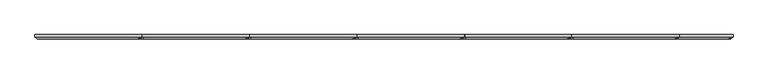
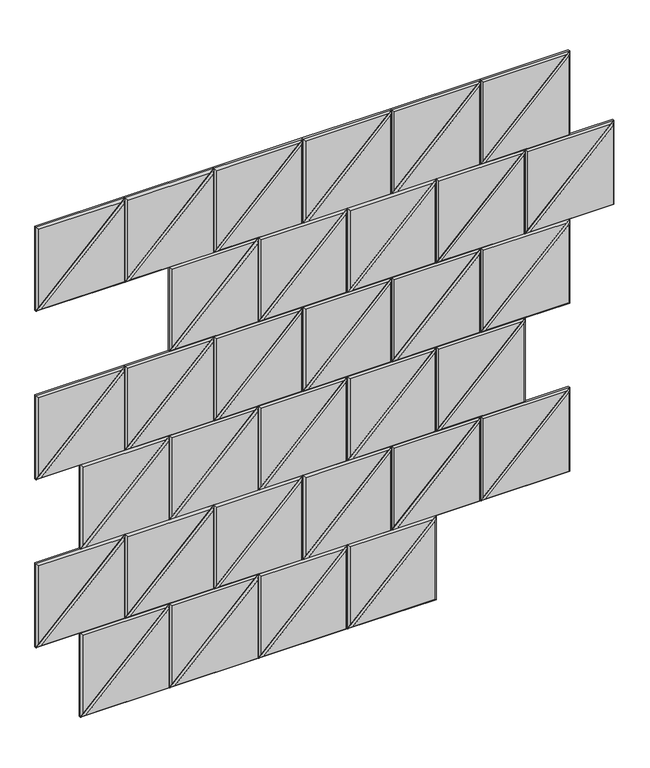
"""IFC4 building model written with IfcOpenShell, lengths in millimetres: proxy geometry, Wall_Akebia 4.3dm."""

import ifcopenshell
import ifcopenshell.guid

model = None  # the IFC model being written
_history = None  # IfcOwnerHistory: only IFC2X3 demands one
_inside = {}  # id of a spatial element -> (the spatial element, [elements in it])
_under = {}  # id of a project, library or spatial element -> (it, [spatial elements below it])
_declared = {}  # id of a project -> (the project, [libraries it declares])
_typed = {}  # id of a type object -> (the type object, [elements of that type])
_made_of = {}  # id of a material, layer set ... -> (it, [elements and type objects made of it])


def new_model(schema):
    """Start an empty IFC model of exactly this schema.

    Asked for "IFC4X3", IfcOpenShell would pick the latest addendum, in which some entities
    have other attributes; the version numbers below select the first issue.
    IFC2X3 requires an IfcOwnerHistory on every rooted entity: one is made here for all.
    """
    global model, _history
    if schema == "IFC4X3":
        model = ifcopenshell.file(schema_version=(4, 3, 0, 0))
    else:
        model = ifcopenshell.file(schema=schema)
    _inside.clear()
    _under.clear()
    _declared.clear()
    _typed.clear()
    _made_of.clear()
    _history = None
    if model.schema == "IFC2X3":
        org = make("IfcOrganization", Name="unknown")
        user = make(
            "IfcPersonAndOrganization",
            ThePerson=make("IfcPerson", FamilyName="unknown"),
            TheOrganization=org,
        )
        app = make(
            "IfcApplication",
            ApplicationDeveloper=org,
            Version="unknown",
            ApplicationFullName="unknown",
            ApplicationIdentifier="unknown",
        )
        _history = make(
            "IfcOwnerHistory",
            OwningUser=user,
            OwningApplication=app,
            ChangeAction="ADDED",
            CreationDate=0,
        )
    return model


def make(cls, **values):
    """One entity of the class cls with the attributes given. An attribute that is None is left unset."""
    return model.create_entity(
        cls, **{name: value for name, value in values.items() if value is not None}
    )


def rooted(cls, **values):
    """An entity with a GlobalId (a new one), such as an element, a storey or a relation."""
    return make(cls, GlobalId=ifcopenshell.guid.new(), OwnerHistory=_history, **values)


def si_unit(unit_type, name, prefix=None):
    """IfcSIUnit, for example si_unit("LENGTHUNIT", "METRE", prefix="MILLI")."""
    return make("IfcSIUnit", UnitType=unit_type, Prefix=prefix, Name=name)


def assignment(units):
    """IfcUnitAssignment: the units of a project."""
    return None if units is None else make("IfcUnitAssignment", Units=units)


def point(xyz):
    """IfcCartesianPoint."""
    return None if xyz is None else make("IfcCartesianPoint", Coordinates=xyz)


def direction(xyz):
    """IfcDirection."""
    return None if xyz is None else make("IfcDirection", DirectionRatios=xyz)


def frame(location, z_axis=None, x_axis=None):
    """IfcAxis2Placement3D, a coordinate frame: its origin and axes. An axis left out is left unset."""
    return make(
        "IfcAxis2Placement3D",
        Location=point(location),
        Axis=direction(z_axis),
        RefDirection=direction(x_axis),
    )


def origin():
    """The frame at (0, 0, 0) with its axes left unset."""
    return frame((0.0, 0.0, 0.0))


def place(relative_to, where):
    """IfcLocalPlacement: puts the frame where relative to a parent placement (None: the world)."""
    return make(
        "IfcLocalPlacement", PlacementRelTo=relative_to, RelativePlacement=where
    )


def context(
    kind, dimensions, precision=None, world=None, true_north=None, identifier=None
):
    """IfcGeometricRepresentationContext, for example the 3D "Model" context."""
    return make(
        "IfcGeometricRepresentationContext",
        ContextIdentifier=identifier,
        ContextType=kind,
        CoordinateSpaceDimension=dimensions,
        Precision=precision,
        WorldCoordinateSystem=world,
        TrueNorth=true_north,
    )


def project(units=None, contexts=None):
    """IfcProject with its units and contexts."""
    return rooted(
        "IfcProject",
        Name="project",
        RepresentationContexts=contexts,
        UnitsInContext=assignment(units),
    )


def spatial(cls, under=None, at=None, **own):
    """A site, building, storey or space (cls), placed at a placement, below another one or the project."""
    s = rooted(cls, ObjectPlacement=at, **own)
    if under is not None:
        _under.setdefault(under.id(), (under, []))[1].append(s)
    return s


def faces_of(points, faces, orient=None, outer=None):
    """IfcFace entities. A face is a list of loops; a loop is a list of indices into points, from 0.

    orient and outer hold one flag for each loop. By default every Orientation is true, the
    first loop of a face is its IfcFaceOuterBound and the others are IfcFaceBound.
    """
    made = []
    for i, loops in enumerate(faces):
        bounds = []
        for j, loop in enumerate(loops):
            is_outer = j == 0 if outer is None else outer[i][j]
            bounds.append(
                make(
                    "IfcFaceOuterBound" if is_outer else "IfcFaceBound",
                    Bound=make("IfcPolyLoop", Polygon=[points[k] for k in loop]),
                    Orientation=True if orient is None else orient[i][j],
                )
            )
        made.append(make("IfcFace", Bounds=bounds))
    return made


def faceted_brep(points, faces, orient=None, outer=None, voids=None):
    """IfcFacetedBrep: a solid bounded by flat faces; with voids (closed shells), ...WithVoids."""
    shared = [point(p) for p in points]
    hull = make("IfcClosedShell", CfsFaces=faces_of(shared, faces, orient, outer))
    if voids is None:
        return make("IfcFacetedBrep", Outer=hull)
    return make(
        "IfcFacetedBrepWithVoids",
        Outer=hull,
        Voids=[
            make(cls, CfsFaces=faces_of(shared, fs, o, b)) for cls, fs, o, b in voids
        ],
    )


def shape(context_of_items, identifier, shape_type, items):
    """IfcShapeRepresentation: the items that make up one representation, for example the "Body"."""
    return make(
        "IfcShapeRepresentation",
        ContextOfItems=context_of_items,
        RepresentationIdentifier=identifier,
        RepresentationType=shape_type,
        Items=items,
    )


def source(mapping_origin, context_of_items, identifier, shape_type, items):
    """IfcRepresentationMap: a shape defined once, which mapped items show again and again."""
    return make(
        "IfcRepresentationMap",
        MappingOrigin=mapping_origin,
        MappedRepresentation=shape(context_of_items, identifier, shape_type, items),
    )


def transform(
    local_origin,
    x_axis=None,
    y_axis=None,
    z_axis=None,
    scale=None,
    scale2=None,
    scale3=None,
    uniform=True,
):
    """IfcCartesianTransformationOperator3D, or its non-uniform kind. x_axis, y_axis, z_axis: its Axis1, 2, 3."""
    if uniform:
        return make(
            "IfcCartesianTransformationOperator3D",
            Axis1=direction(x_axis),
            Axis2=direction(y_axis),
            LocalOrigin=point(local_origin),
            Scale=scale,
            Axis3=direction(z_axis),
        )
    return make(
        "IfcCartesianTransformationOperator3DnonUniform",
        Axis1=direction(x_axis),
        Axis2=direction(y_axis),
        LocalOrigin=point(local_origin),
        Scale=scale,
        Axis3=direction(z_axis),
        Scale2=scale2,
        Scale3=scale3,
    )


def mapped(mapping_source, mapping_target):
    """IfcMappedItem: shows the shape of a source again, moved by a transform."""
    return make(
        "IfcMappedItem", MappingSource=mapping_source, MappingTarget=mapping_target
    )


def made_of(thing, what):
    """Note that an element or type object is made of a material, layer set ...; save() writes the relation."""
    if what is not None:
        _made_of.setdefault(what.id(), (what, []))[1].append(thing)
    return thing


def element(
    cls,
    number,
    at=None,
    inside=None,
    cuts=None,
    type_object=None,
    material=None,
    context=None,
    identifier="Body",
    shape_type=None,
    held_by="IfcProductDefinitionShape",
    body=None,
    shapes=None,
    **own,
):
    """One element of the class cls, such as IfcWall. Its Tag is "e" and its number.

    at: its placement. inside: the storey or other place that contains it. cuts: it is an
    opening in that element (IfcRelVoidsElement). A single representation is given by context,
    identifier, shape_type and body (its items); several are given by shapes. held_by: the class
    of the entity that holds the representations. save() writes the other relations.
    """
    e = rooted(cls, Tag="e%d" % number, ObjectPlacement=at, **own)
    if body is not None:
        shapes = [shape(context, identifier, shape_type, body)]
    if shapes is not None:
        e.Representation = make(held_by, Representations=shapes)
    if inside is not None:
        _inside.setdefault(inside.id(), (inside, []))[1].append(e)
    if cuts is not None:
        rooted(
            "IfcRelVoidsElement", RelatingBuildingElement=cuts, RelatedOpeningElement=e
        )
    if type_object is not None:
        _typed.setdefault(type_object.id(), (type_object, []))[1].append(e)
    return made_of(e, material)


def aggregate(whole, parts):
    """IfcRelAggregates: a whole, such as a stair, and the parts it consists of."""
    return rooted("IfcRelAggregates", RelatingObject=whole, RelatedObjects=parts)


def save(model, path):
    """Write the relations noted so far, then the file.

    IfcRelAggregates (storeys below a building ...), IfcRelContainedInSpatialStructure (elements
    in a storey), IfcRelDefinesByType, IfcRelAssociatesMaterial and IfcRelDeclares: one each for
    every whole, place, type object, material and project.
    """
    for whole, parts in _under.values():
        aggregate(whole, parts)
    for where, things in _inside.values():
        rooted(
            "IfcRelContainedInSpatialStructure",
            RelatedElements=things,
            RelatingStructure=where,
        )
    for kind, things in _typed.values():
        rooted("IfcRelDefinesByType", RelatedObjects=things, RelatingType=kind)
    for what, things in _made_of.values():
        rooted("IfcRelAssociatesMaterial", RelatedObjects=things, RelatingMaterial=what)
    for by, libraries in _declared.values():
        rooted("IfcRelDeclares", RelatingContext=by, RelatedDefinitions=libraries)
    model.write(path)


def generic_models_d60f6803(model_context):
    return source(origin(), model_context, "Body", "Brep", [
        faceted_brep([(3597.025, 12.0, 1009.2984417), (3298.575, 12.0, 1009.2984417), (3597.025, 12.0, 1307.7484417), (3597.025, 6.0, 1009.2984417), (3597.025, 6.0, 1307.7484417), (3298.575, 6.0, 1009.2984417), (3313.0602814, 0.0, 1015.2984417), (3591.025, 0.0, 1015.2984417), (3591.025, 0.0, 1293.2631603)], [[[0, 1, 2]], [[3, 0, 2, 4]], [[4, 2, 1, 5]], [[5, 1, 0, 3]], [[6, 7, 8]], [[3, 4, 8, 7]], [[4, 5, 6, 8]], [[5, 3, 7, 6]]]),
        faceted_brep([(3298.575, 12.0, 1307.7484417), (3597.025, 12.0, 1307.7484417), (3298.575, 12.0, 1009.2984417), (3298.575, 6.0, 1307.7484417), (3597.025, 6.0, 1307.7484417), (3298.575, 6.0, 1009.2984417), (3304.575, 0.0, 1023.7837231), (3582.5397186, 0.0, 1301.7484417), (3304.575, 0.0, 1301.7484417)], [[[0, 1, 2]], [[3, 4, 1, 0]], [[4, 5, 2, 1]], [[5, 3, 0, 2]], [[6, 7, 8]], [[3, 8, 7, 4]], [[4, 7, 6, 5]], [[5, 6, 8, 3]]]),
        faceted_brep([(3000.125, 12.0, 1307.7484417), (3298.575, 12.0, 1307.7484417), (3000.125, 12.0, 1009.2984417), (3000.125, 6.0, 1307.7484417), (3000.125, 6.0, 1009.2984417), (3298.575, 6.0, 1307.7484417), (3284.0897186, 0.0, 1301.7484417), (3006.125, 0.0, 1301.7484417), (3006.125, 0.0, 1023.7837231)], [[[0, 1, 2]], [[3, 0, 2, 4]], [[4, 2, 1, 5]], [[5, 1, 0, 3]], [[6, 7, 8]], [[3, 4, 8, 7]], [[4, 5, 6, 8]], [[5, 3, 7, 6]]]),
        faceted_brep([(3298.575, 12.0, 1009.2984417), (3000.125, 12.0, 1009.2984417), (3298.575, 12.0, 1307.7484417), (3298.575, 6.0, 1009.2984417), (3000.125, 6.0, 1009.2984417), (3298.575, 6.0, 1307.7484417), (3292.575, 0.0, 1293.2631603), (3014.6102814, 0.0, 1015.2984417), (3292.575, 0.0, 1015.2984417)], [[[0, 1, 2]], [[3, 4, 1, 0]], [[4, 5, 2, 1]], [[5, 3, 0, 2]], [[6, 7, 8]], [[3, 8, 7, 4]], [[4, 7, 6, 5]], [[5, 6, 8, 3]]]),
        faceted_brep([(3000.1243169, 12.0, 1009.2976625), (2701.6743169, 12.0, 1009.2976625), (3000.1243169, 12.0, 1307.7476625), (3000.1243169, 6.0, 1009.2976625), (3000.1243169, 6.0, 1307.7476625), (2701.6743169, 6.0, 1009.2976625), (2716.1595982, 0.0, 1015.2976625), (2994.1243169, 0.0, 1015.2976625), (2994.1243169, 0.0, 1293.2623811)], [[[0, 1, 2]], [[3, 0, 2, 4]], [[4, 2, 1, 5]], [[5, 1, 0, 3]], [[6, 7, 8]], [[3, 4, 8, 7]], [[4, 5, 6, 8]], [[5, 3, 7, 6]]]),
        faceted_brep([(2701.6743169, 12.0, 1307.7476625), (3000.1243169, 12.0, 1307.7476625), (2701.6743169, 12.0, 1009.2976625), (2701.6743169, 6.0, 1307.7476625), (3000.1243169, 6.0, 1307.7476625), (2701.6743169, 6.0, 1009.2976625), (2707.6743169, 0.0, 1023.7829439), (2985.6390355, 0.0, 1301.7476625), (2707.6743169, 0.0, 1301.7476625)], [[[0, 1, 2]], [[3, 4, 1, 0]], [[4, 5, 2, 1]], [[5, 3, 0, 2]], [[6, 7, 8]], [[3, 8, 7, 4]], [[4, 7, 6, 5]], [[5, 6, 8, 3]]]),
        faceted_brep([(2403.2243169, 12.0, 1307.7476625), (2701.6743169, 12.0, 1307.7476625), (2403.2243169, 12.0, 1009.2976625), (2403.2243169, 6.0, 1307.7476625), (2403.2243169, 6.0, 1009.2976625), (2701.6743169, 6.0, 1307.7476625), (2687.1890355, 0.0, 1301.7476625), (2409.2243169, 0.0, 1301.7476625), (2409.2243169, 0.0, 1023.7829439)], [[[0, 1, 2]], [[3, 0, 2, 4]], [[4, 2, 1, 5]], [[5, 1, 0, 3]], [[6, 7, 8]], [[3, 4, 8, 7]], [[4, 5, 6, 8]], [[5, 3, 7, 6]]]),
        faceted_brep([(2701.6743169, 12.0, 1009.2976625), (2403.2243169, 12.0, 1009.2976625), (2701.6743169, 12.0, 1307.7476625), (2701.6743169, 6.0, 1009.2976625), (2403.2243169, 6.0, 1009.2976625), (2701.6743169, 6.0, 1307.7476625), (2695.6743169, 0.0, 1293.2623811), (2417.7095982, 0.0, 1015.2976625), (2695.6743169, 0.0, 1015.2976625)], [[[0, 1, 2]], [[3, 4, 1, 0]], [[4, 5, 2, 1]], [[5, 3, 0, 2]], [[6, 7, 8]], [[3, 8, 7, 4]], [[4, 7, 6, 5]], [[5, 6, 8, 3]]]),
        faceted_brep([(3746.2513663, 12.0, 1606.2), (4044.7013663, 12.0, 1606.2), (3746.2513663, 12.0, 1307.75), (3746.2513663, 6.0, 1606.2), (3746.2513663, 6.0, 1307.75), (4044.7013663, 6.0, 1606.2), (4030.2160849, 0.0, 1600.2), (3752.2513663, 0.0, 1600.2), (3752.2513663, 0.0, 1322.2352814)], [[[0, 1, 2]], [[3, 0, 2, 4]], [[4, 2, 1, 5]], [[5, 1, 0, 3]], [[6, 7, 8]], [[3, 4, 8, 7]], [[4, 5, 6, 8]], [[5, 3, 7, 6]]]),
        faceted_brep([(4044.7013663, 12.0, 1307.75), (3746.2513663, 12.0, 1307.75), (4044.7013663, 12.0, 1606.2), (4044.7013663, 6.0, 1307.75), (3746.2513663, 6.0, 1307.75), (4044.7013663, 6.0, 1606.2), (4038.7013663, 0.0, 1591.7147186), (3760.7366476, 0.0, 1313.75), (4038.7013663, 0.0, 1313.75)], [[[0, 1, 2]], [[3, 4, 1, 0]], [[4, 5, 2, 1]], [[5, 3, 0, 2]], [[6, 7, 8]], [[3, 8, 7, 4]], [[4, 7, 6, 5]], [[5, 6, 8, 3]]]),
        faceted_brep([(3746.2506831, 12.0, 1307.7492208), (3447.8006831, 12.0, 1307.7492208), (3746.2506831, 12.0, 1606.1992208), (3746.2506831, 6.0, 1307.7492208), (3746.2506831, 6.0, 1606.1992208), (3447.8006831, 6.0, 1307.7492208), (3462.2859645, 0.0, 1313.7492208), (3740.2506831, 0.0, 1313.7492208), (3740.2506831, 0.0, 1591.7139395)], [[[0, 1, 2]], [[3, 0, 2, 4]], [[4, 2, 1, 5]], [[5, 1, 0, 3]], [[6, 7, 8]], [[3, 4, 8, 7]], [[4, 5, 6, 8]], [[5, 3, 7, 6]]]),
        faceted_brep([(3447.8006831, 12.0, 1606.1992208), (3746.2506831, 12.0, 1606.1992208), (3447.8006831, 12.0, 1307.7492208), (3447.8006831, 6.0, 1606.1992208), (3746.2506831, 6.0, 1606.1992208), (3447.8006831, 6.0, 1307.7492208), (3453.8006831, 0.0, 1322.2345022), (3731.7654018, 0.0, 1600.1992208), (3453.8006831, 0.0, 1600.1992208)], [[[0, 1, 2]], [[3, 4, 1, 0]], [[4, 5, 2, 1]], [[5, 3, 0, 2]], [[6, 7, 8]], [[3, 8, 7, 4]], [[4, 7, 6, 5]], [[5, 6, 8, 3]]]),
        faceted_brep([(3149.3506831, 12.0, 1606.1992208), (3447.8006831, 12.0, 1606.1992208), (3149.3506831, 12.0, 1307.7492208), (3149.3506831, 6.0, 1606.1992208), (3149.3506831, 6.0, 1307.7492208), (3447.8006831, 6.0, 1606.1992208), (3433.3154018, 0.0, 1600.1992208), (3155.3506831, 0.0, 1600.1992208), (3155.3506831, 0.0, 1322.2345022)], [[[0, 1, 2]], [[3, 0, 2, 4]], [[4, 2, 1, 5]], [[5, 1, 0, 3]], [[6, 7, 8]], [[3, 4, 8, 7]], [[4, 5, 6, 8]], [[5, 3, 7, 6]]]),
        faceted_brep([(3447.8006831, 12.0, 1307.7492208), (3149.3506831, 12.0, 1307.7492208), (3447.8006831, 12.0, 1606.1992208), (3447.8006831, 6.0, 1307.7492208), (3149.3506831, 6.0, 1307.7492208), (3447.8006831, 6.0, 1606.1992208), (3441.8006831, 0.0, 1591.7139395), (3163.8359645, 0.0, 1313.7492208), (3441.8006831, 0.0, 1313.7492208)], [[[0, 1, 2]], [[3, 4, 1, 0]], [[4, 5, 2, 1]], [[5, 3, 0, 2]], [[6, 7, 8]], [[3, 8, 7, 4]], [[4, 7, 6, 5]], [[5, 6, 8, 3]]]),
        faceted_brep([(3149.35, 12.0, 1307.7484417), (2850.9, 12.0, 1307.7484417), (3149.35, 12.0, 1606.1984417), (3149.35, 6.0, 1307.7484417), (3149.35, 6.0, 1606.1984417), (2850.9, 6.0, 1307.7484417), (2865.3852814, 0.0, 1313.7484417), (3143.35, 0.0, 1313.7484417), (3143.35, 0.0, 1591.7131603)], [[[0, 1, 2]], [[3, 0, 2, 4]], [[4, 2, 1, 5]], [[5, 1, 0, 3]], [[6, 7, 8]], [[3, 4, 8, 7]], [[4, 5, 6, 8]], [[5, 3, 7, 6]]]),
        faceted_brep([(2850.9, 12.0, 1606.1984417), (3149.35, 12.0, 1606.1984417), (2850.9, 12.0, 1307.7484417), (2850.9, 6.0, 1606.1984417), (3149.35, 6.0, 1606.1984417), (2850.9, 6.0, 1307.7484417), (2856.9, 0.0, 1322.2337231), (3134.8647186, 0.0, 1600.1984417), (2856.9, 0.0, 1600.1984417)], [[[0, 1, 2]], [[3, 4, 1, 0]], [[4, 5, 2, 1]], [[5, 3, 0, 2]], [[6, 7, 8]], [[3, 8, 7, 4]], [[4, 7, 6, 5]], [[5, 6, 8, 3]]]),
        faceted_brep([(2552.45, 12.0, 1606.1984417), (2850.9, 12.0, 1606.1984417), (2552.45, 12.0, 1307.7484417), (2552.45, 6.0, 1606.1984417), (2552.45, 6.0, 1307.7484417), (2850.9, 6.0, 1606.1984417), (2836.4147186, 0.0, 1600.1984417), (2558.45, 0.0, 1600.1984417), (2558.45, 0.0, 1322.2337231)], [[[0, 1, 2]], [[3, 0, 2, 4]], [[4, 2, 1, 5]], [[5, 1, 0, 3]], [[6, 7, 8]], [[3, 4, 8, 7]], [[4, 5, 6, 8]], [[5, 3, 7, 6]]]),
        faceted_brep([(2850.9, 12.0, 1307.7484417), (2552.45, 12.0, 1307.7484417), (2850.9, 12.0, 1606.1984417), (2850.9, 6.0, 1307.7484417), (2552.45, 6.0, 1307.7484417), (2850.9, 6.0, 1606.1984417), (2844.9, 0.0, 1591.7131603), (2566.9352814, 0.0, 1313.7484417), (2844.9, 0.0, 1313.7484417)], [[[0, 1, 2]], [[3, 4, 1, 0]], [[4, 5, 2, 1]], [[5, 3, 0, 2]], [[6, 7, 8]], [[3, 8, 7, 4]], [[4, 7, 6, 5]], [[5, 6, 8, 3]]]),
        faceted_brep([(2552.4493169, 12.0, 1307.7476625), (2253.9993169, 12.0, 1307.7476625), (2552.4493169, 12.0, 1606.1976625), (2552.4493169, 6.0, 1307.7476625), (2552.4493169, 6.0, 1606.1976625), (2253.9993169, 6.0, 1307.7476625), (2268.4845982, 0.0, 1313.7476625), (2546.4493169, 0.0, 1313.7476625), (2546.4493169, 0.0, 1591.7123811)], [[[0, 1, 2]], [[3, 0, 2, 4]], [[4, 2, 1, 5]], [[5, 1, 0, 3]], [[6, 7, 8]], [[3, 4, 8, 7]], [[4, 5, 6, 8]], [[5, 3, 7, 6]]]),
        faceted_brep([(2253.9993169, 12.0, 1606.1976625), (2552.4493169, 12.0, 1606.1976625), (2253.9993169, 12.0, 1307.7476625), (2253.9993169, 6.0, 1606.1976625), (2552.4493169, 6.0, 1606.1976625), (2253.9993169, 6.0, 1307.7476625), (2259.9993169, 0.0, 1322.2329439), (2537.9640355, 0.0, 1600.1976625), (2259.9993169, 0.0, 1600.1976625)], [[[0, 1, 2]], [[3, 4, 1, 0]], [[4, 5, 2, 1]], [[5, 3, 0, 2]], [[6, 7, 8]], [[3, 8, 7, 4]], [[4, 7, 6, 5]], [[5, 6, 8, 3]]]),
        faceted_brep([(3597.0263663, 12.0, 1904.65), (3895.4763663, 12.0, 1904.65), (3597.0263663, 12.0, 1606.2), (3597.0263663, 6.0, 1904.65), (3597.0263663, 6.0, 1606.2), (3895.4763663, 6.0, 1904.65), (3880.9910849, 0.0, 1898.65), (3603.0263663, 0.0, 1898.65), (3603.0263663, 0.0, 1620.6852814)], [[[0, 1, 2]], [[3, 0, 2, 4]], [[4, 2, 1, 5]], [[5, 1, 0, 3]], [[6, 7, 8]], [[3, 4, 8, 7]], [[4, 5, 6, 8]], [[5, 3, 7, 6]]]),
        faceted_brep([(3895.4763663, 12.0, 1606.2), (3597.0263663, 12.0, 1606.2), (3895.4763663, 12.0, 1904.65), (3895.4763663, 6.0, 1606.2), (3597.0263663, 6.0, 1606.2), (3895.4763663, 6.0, 1904.65), (3889.4763663, 0.0, 1890.1647186), (3611.5116476, 0.0, 1612.2), (3889.4763663, 0.0, 1612.2)], [[[0, 1, 2]], [[3, 4, 1, 0]], [[4, 5, 2, 1]], [[5, 3, 0, 2]], [[6, 7, 8]], [[3, 8, 7, 4]], [[4, 7, 6, 5]], [[5, 6, 8, 3]]]),
        faceted_brep([(3597.0256831, 12.0, 1606.1992208), (3298.5756831, 12.0, 1606.1992208), (3597.0256831, 12.0, 1904.6492208), (3597.0256831, 6.0, 1606.1992208), (3597.0256831, 6.0, 1904.6492208), (3298.5756831, 6.0, 1606.1992208), (3313.0609645, 0.0, 1612.1992208), (3591.0256831, 0.0, 1612.1992208), (3591.0256831, 0.0, 1890.1639395)], [[[0, 1, 2]], [[3, 0, 2, 4]], [[4, 2, 1, 5]], [[5, 1, 0, 3]], [[6, 7, 8]], [[3, 4, 8, 7]], [[4, 5, 6, 8]], [[5, 3, 7, 6]]]),
        faceted_brep([(3298.5756831, 12.0, 1904.6492208), (3597.0256831, 12.0, 1904.6492208), (3298.5756831, 12.0, 1606.1992208), (3298.5756831, 6.0, 1904.6492208), (3597.0256831, 6.0, 1904.6492208), (3298.5756831, 6.0, 1606.1992208), (3304.5756831, 0.0, 1620.6845022), (3582.5404018, 0.0, 1898.6492208), (3304.5756831, 0.0, 1898.6492208)], [[[0, 1, 2]], [[3, 4, 1, 0]], [[4, 5, 2, 1]], [[5, 3, 0, 2]], [[6, 7, 8]], [[3, 8, 7, 4]], [[4, 7, 6, 5]], [[5, 6, 8, 3]]]),
        faceted_brep([(3000.1256831, 12.0, 1904.6492208), (3298.5756831, 12.0, 1904.6492208), (3000.1256831, 12.0, 1606.1992208), (3000.1256831, 6.0, 1904.6492208), (3000.1256831, 6.0, 1606.1992208), (3298.5756831, 6.0, 1904.6492208), (3284.0904018, 0.0, 1898.6492208), (3006.1256831, 0.0, 1898.6492208), (3006.1256831, 0.0, 1620.6845022)], [[[0, 1, 2]], [[3, 0, 2, 4]], [[4, 2, 1, 5]], [[5, 1, 0, 3]], [[6, 7, 8]], [[3, 4, 8, 7]], [[4, 5, 6, 8]], [[5, 3, 7, 6]]]),
        faceted_brep([(3298.5756831, 12.0, 1606.1992208), (3000.1256831, 12.0, 1606.1992208), (3298.5756831, 12.0, 1904.6492208), (3298.5756831, 6.0, 1606.1992208), (3000.1256831, 6.0, 1606.1992208), (3298.5756831, 6.0, 1904.6492208), (3292.5756831, 0.0, 1890.1639395), (3014.6109645, 0.0, 1612.1992208), (3292.5756831, 0.0, 1612.1992208)], [[[0, 1, 2]], [[3, 4, 1, 0]], [[4, 5, 2, 1]], [[5, 3, 0, 2]], [[6, 7, 8]], [[3, 8, 7, 4]], [[4, 7, 6, 5]], [[5, 6, 8, 3]]]),
        faceted_brep([(3000.125, 12.0, 1606.1984417), (2701.675, 12.0, 1606.1984417), (3000.125, 12.0, 1904.6484417), (3000.125, 6.0, 1606.1984417), (3000.125, 6.0, 1904.6484417), (2701.675, 6.0, 1606.1984417), (2716.1602814, 0.0, 1612.1984417), (2994.125, 0.0, 1612.1984417), (2994.125, 0.0, 1890.1631603)], [[[0, 1, 2]], [[3, 0, 2, 4]], [[4, 2, 1, 5]], [[5, 1, 0, 3]], [[6, 7, 8]], [[3, 4, 8, 7]], [[4, 5, 6, 8]], [[5, 3, 7, 6]]]),
        faceted_brep([(2701.675, 12.0, 1904.6484417), (3000.125, 12.0, 1904.6484417), (2701.675, 12.0, 1606.1984417), (2701.675, 6.0, 1904.6484417), (3000.125, 6.0, 1904.6484417), (2701.675, 6.0, 1606.1984417), (2707.675, 0.0, 1620.6837231), (2985.6397186, 0.0, 1898.6484417), (2707.675, 0.0, 1898.6484417)], [[[0, 1, 2]], [[3, 4, 1, 0]], [[4, 5, 2, 1]], [[5, 3, 0, 2]], [[6, 7, 8]], [[3, 8, 7, 4]], [[4, 7, 6, 5]], [[5, 6, 8, 3]]]),
        faceted_brep([(2403.225, 12.0, 1904.6484417), (2701.675, 12.0, 1904.6484417), (2403.225, 12.0, 1606.1984417), (2403.225, 6.0, 1904.6484417), (2403.225, 6.0, 1606.1984417), (2701.675, 6.0, 1904.6484417), (2687.1897186, 0.0, 1898.6484417), (2409.225, 0.0, 1898.6484417), (2409.225, 0.0, 1620.6837231)], [[[0, 1, 2]], [[3, 0, 2, 4]], [[4, 2, 1, 5]], [[5, 1, 0, 3]], [[6, 7, 8]], [[3, 4, 8, 7]], [[4, 5, 6, 8]], [[5, 3, 7, 6]]]),
        faceted_brep([(2701.675, 12.0, 1606.1984417), (2403.225, 12.0, 1606.1984417), (2701.675, 12.0, 1904.6484417), (2701.675, 6.0, 1606.1984417), (2403.225, 6.0, 1606.1984417), (2701.675, 6.0, 1904.6484417), (2695.675, 0.0, 1890.1631603), (2417.7102814, 0.0, 1612.1984417), (2695.675, 0.0, 1612.1984417)], [[[0, 1, 2]], [[3, 4, 1, 0]], [[4, 5, 2, 1]], [[5, 3, 0, 2]], [[6, 7, 8]], [[3, 8, 7, 4]], [[4, 7, 6, 5]], [[5, 6, 8, 3]]]),
        faceted_brep([(3746.2520494, 12.0, 2203.1007792), (4044.7020494, 12.0, 2203.1007792), (3746.2520494, 12.0, 1904.6507792), (3746.2520494, 6.0, 2203.1007792), (3746.2520494, 6.0, 1904.6507792), (4044.7020494, 6.0, 2203.1007792), (4030.216768, 0.0, 2197.1007792), (3752.2520494, 0.0, 2197.1007792), (3752.2520494, 0.0, 1919.1360605)], [[[0, 1, 2]], [[3, 0, 2, 4]], [[4, 2, 1, 5]], [[5, 1, 0, 3]], [[6, 7, 8]], [[3, 4, 8, 7]], [[4, 5, 6, 8]], [[5, 3, 7, 6]]]),
        faceted_brep([(4044.7020494, 12.0, 1904.6507792), (3746.2520494, 12.0, 1904.6507792), (4044.7020494, 12.0, 2203.1007792), (4044.7020494, 6.0, 1904.6507792), (3746.2520494, 6.0, 1904.6507792), (4044.7020494, 6.0, 2203.1007792), (4038.7020494, 0.0, 2188.6154978), (3760.7373308, 0.0, 1910.6507792), (4038.7020494, 0.0, 1910.6507792)], [[[0, 1, 2]], [[3, 4, 1, 0]], [[4, 5, 2, 1]], [[5, 3, 0, 2]], [[6, 7, 8]], [[3, 8, 7, 4]], [[4, 7, 6, 5]], [[5, 6, 8, 3]]]),
        faceted_brep([(3746.2513663, 12.0, 1904.65), (3447.8013663, 12.0, 1904.65), (3746.2513663, 12.0, 2203.1), (3746.2513663, 6.0, 1904.65), (3746.2513663, 6.0, 2203.1), (3447.8013663, 6.0, 1904.65), (3462.2866476, 0.0, 1910.65), (3740.2513663, 0.0, 1910.65), (3740.2513663, 0.0, 2188.6147186)], [[[0, 1, 2]], [[3, 0, 2, 4]], [[4, 2, 1, 5]], [[5, 1, 0, 3]], [[6, 7, 8]], [[3, 4, 8, 7]], [[4, 5, 6, 8]], [[5, 3, 7, 6]]]),
        faceted_brep([(3447.8013663, 12.0, 2203.1), (3746.2513663, 12.0, 2203.1), (3447.8013663, 12.0, 1904.65), (3447.8013663, 6.0, 2203.1), (3746.2513663, 6.0, 2203.1), (3447.8013663, 6.0, 1904.65), (3453.8013663, 0.0, 1919.1352814), (3731.7660849, 0.0, 2197.1), (3453.8013663, 0.0, 2197.1)], [[[0, 1, 2]], [[3, 4, 1, 0]], [[4, 5, 2, 1]], [[5, 3, 0, 2]], [[6, 7, 8]], [[3, 8, 7, 4]], [[4, 7, 6, 5]], [[5, 6, 8, 3]]]),
        faceted_brep([(3149.3513663, 12.0, 2203.1), (3447.8013663, 12.0, 2203.1), (3149.3513663, 12.0, 1904.65), (3149.3513663, 6.0, 2203.1), (3149.3513663, 6.0, 1904.65), (3447.8013663, 6.0, 2203.1), (3433.3160849, 0.0, 2197.1), (3155.3513663, 0.0, 2197.1), (3155.3513663, 0.0, 1919.1352814)], [[[0, 1, 2]], [[3, 0, 2, 4]], [[4, 2, 1, 5]], [[5, 1, 0, 3]], [[6, 7, 8]], [[3, 4, 8, 7]], [[4, 5, 6, 8]], [[5, 3, 7, 6]]]),
        faceted_brep([(3447.8013663, 12.0, 1904.65), (3149.3513663, 12.0, 1904.65), (3447.8013663, 12.0, 2203.1), (3447.8013663, 6.0, 1904.65), (3149.3513663, 6.0, 1904.65), (3447.8013663, 6.0, 2203.1), (3441.8013663, 0.0, 2188.6147186), (3163.8366476, 0.0, 1910.65), (3441.8013663, 0.0, 1910.65)], [[[0, 1, 2]], [[3, 4, 1, 0]], [[4, 5, 2, 1]], [[5, 3, 0, 2]], [[6, 7, 8]], [[3, 8, 7, 4]], [[4, 7, 6, 5]], [[5, 6, 8, 3]]]),
        faceted_brep([(3149.3506831, 12.0, 1904.6492208), (2850.9006831, 12.0, 1904.6492208), (3149.3506831, 12.0, 2203.0992208), (3149.3506831, 6.0, 1904.6492208), (3149.3506831, 6.0, 2203.0992208), (2850.9006831, 6.0, 1904.6492208), (2865.3859645, 0.0, 1910.6492208), (3143.3506831, 0.0, 1910.6492208), (3143.3506831, 0.0, 2188.6139395)], [[[0, 1, 2]], [[3, 0, 2, 4]], [[4, 2, 1, 5]], [[5, 1, 0, 3]], [[6, 7, 8]], [[3, 4, 8, 7]], [[4, 5, 6, 8]], [[5, 3, 7, 6]]]),
        faceted_brep([(2850.9006831, 12.0, 2203.0992208), (3149.3506831, 12.0, 2203.0992208), (2850.9006831, 12.0, 1904.6492208), (2850.9006831, 6.0, 2203.0992208), (3149.3506831, 6.0, 2203.0992208), (2850.9006831, 6.0, 1904.6492208), (2856.9006831, 0.0, 1919.1345022), (3134.8654018, 0.0, 2197.0992208), (2856.9006831, 0.0, 2197.0992208)], [[[0, 1, 2]], [[3, 4, 1, 0]], [[4, 5, 2, 1]], [[5, 3, 0, 2]], [[6, 7, 8]], [[3, 8, 7, 4]], [[4, 7, 6, 5]], [[5, 6, 8, 3]]]),
        faceted_brep([(2552.4506831, 12.0, 2203.0992208), (2850.9006831, 12.0, 2203.0992208), (2552.4506831, 12.0, 1904.6492208), (2552.4506831, 6.0, 2203.0992208), (2552.4506831, 6.0, 1904.6492208), (2850.9006831, 6.0, 2203.0992208), (2836.4154018, 0.0, 2197.0992208), (2558.4506831, 0.0, 2197.0992208), (2558.4506831, 0.0, 1919.1345022)], [[[0, 1, 2]], [[3, 0, 2, 4]], [[4, 2, 1, 5]], [[5, 1, 0, 3]], [[6, 7, 8]], [[3, 4, 8, 7]], [[4, 5, 6, 8]], [[5, 3, 7, 6]]]),
        faceted_brep([(2850.9006831, 12.0, 1904.6492208), (2552.4506831, 12.0, 1904.6492208), (2850.9006831, 12.0, 2203.0992208), (2850.9006831, 6.0, 1904.6492208), (2552.4506831, 6.0, 1904.6492208), (2850.9006831, 6.0, 2203.0992208), (2844.9006831, 0.0, 2188.6139395), (2566.9359645, 0.0, 1910.6492208), (2844.9006831, 0.0, 1910.6492208)], [[[0, 1, 2]], [[3, 4, 1, 0]], [[4, 5, 2, 1]], [[5, 3, 0, 2]], [[6, 7, 8]], [[3, 8, 7, 4]], [[4, 7, 6, 5]], [[5, 6, 8, 3]]]),
        faceted_brep([(2552.45, 12.0, 1904.6484417), (2254.0, 12.0, 1904.6484417), (2552.45, 12.0, 2203.0984417), (2552.45, 6.0, 1904.6484417), (2552.45, 6.0, 2203.0984417), (2254.0, 6.0, 1904.6484417), (2268.4852814, 0.0, 1910.6484417), (2546.45, 0.0, 1910.6484417), (2546.45, 0.0, 2188.6131603)], [[[0, 1, 2]], [[3, 0, 2, 4]], [[4, 2, 1, 5]], [[5, 1, 0, 3]], [[6, 7, 8]], [[3, 4, 8, 7]], [[4, 5, 6, 8]], [[5, 3, 7, 6]]]),
        faceted_brep([(2254.0, 12.0, 2203.0984417), (2552.45, 12.0, 2203.0984417), (2254.0, 12.0, 1904.6484417), (2254.0, 6.0, 2203.0984417), (2552.45, 6.0, 2203.0984417), (2254.0, 6.0, 1904.6484417), (2260.0, 0.0, 1919.1337231), (2537.9647186, 0.0, 2197.0984417), (2260.0, 0.0, 2197.0984417)], [[[0, 1, 2]], [[3, 4, 1, 0]], [[4, 5, 2, 1]], [[5, 3, 0, 2]], [[6, 7, 8]], [[3, 8, 7, 4]], [[4, 7, 6, 5]], [[5, 6, 8, 3]]]),
        faceted_brep([(3895.4756831, 12.0, 2501.5507792), (4193.9256831, 12.0, 2501.5507792), (3895.4756831, 12.0, 2203.1007792), (3895.4756831, 6.0, 2501.5507792), (3895.4756831, 6.0, 2203.1007792), (4193.9256831, 6.0, 2501.5507792), (4179.4404018, 0.0, 2495.5507792), (3901.4756831, 0.0, 2495.5507792), (3901.4756831, 0.0, 2217.5860605)], [[[0, 1, 2]], [[3, 0, 2, 4]], [[4, 2, 1, 5]], [[5, 1, 0, 3]], [[6, 7, 8]], [[3, 4, 8, 7]], [[4, 5, 6, 8]], [[5, 3, 7, 6]]]),
        faceted_brep([(4193.9256831, 12.0, 2203.1007792), (3895.4756831, 12.0, 2203.1007792), (4193.9256831, 12.0, 2501.5507792), (4193.9256831, 6.0, 2203.1007792), (3895.4756831, 6.0, 2203.1007792), (4193.9256831, 6.0, 2501.5507792), (4187.9256831, 0.0, 2487.0654978), (3909.9609645, 0.0, 2209.1007792), (4187.9256831, 0.0, 2209.1007792)], [[[0, 1, 2]], [[3, 4, 1, 0]], [[4, 5, 2, 1]], [[5, 3, 0, 2]], [[6, 7, 8]], [[3, 8, 7, 4]], [[4, 7, 6, 5]], [[5, 6, 8, 3]]]),
        faceted_brep([(3597.0256831, 12.0, 2501.5507792), (3895.4756831, 12.0, 2501.5507792), (3597.0256831, 12.0, 2203.1007792), (3597.0256831, 6.0, 2501.5507792), (3597.0256831, 6.0, 2203.1007792), (3895.4756831, 6.0, 2501.5507792), (3880.9904018, 0.0, 2495.5507792), (3603.0256831, 0.0, 2495.5507792), (3603.0256831, 0.0, 2217.5860605)], [[[0, 1, 2]], [[3, 0, 2, 4]], [[4, 2, 1, 5]], [[5, 1, 0, 3]], [[6, 7, 8]], [[3, 4, 8, 7]], [[4, 5, 6, 8]], [[5, 3, 7, 6]]]),
        faceted_brep([(3895.4756831, 12.0, 2203.1007792), (3597.0256831, 12.0, 2203.1007792), (3895.4756831, 12.0, 2501.5507792), (3895.4756831, 6.0, 2203.1007792), (3597.0256831, 6.0, 2203.1007792), (3895.4756831, 6.0, 2501.5507792), (3889.4756831, 0.0, 2487.0654978), (3611.5109645, 0.0, 2209.1007792), (3889.4756831, 0.0, 2209.1007792)], [[[0, 1, 2]], [[3, 4, 1, 0]], [[4, 5, 2, 1]], [[5, 3, 0, 2]], [[6, 7, 8]], [[3, 8, 7, 4]], [[4, 7, 6, 5]], [[5, 6, 8, 3]]]),
        faceted_brep([(3597.025, 12.0, 2203.1), (3298.575, 12.0, 2203.1), (3597.025, 12.0, 2501.55), (3597.025, 6.0, 2203.1), (3597.025, 6.0, 2501.55), (3298.575, 6.0, 2203.1), (3313.0602814, 0.0, 2209.1), (3591.025, 0.0, 2209.1), (3591.025, 0.0, 2487.0647186)], [[[0, 1, 2]], [[3, 0, 2, 4]], [[4, 2, 1, 5]], [[5, 1, 0, 3]], [[6, 7, 8]], [[3, 4, 8, 7]], [[4, 5, 6, 8]], [[5, 3, 7, 6]]]),
        faceted_brep([(3298.575, 12.0, 2501.55), (3597.025, 12.0, 2501.55), (3298.575, 12.0, 2203.1), (3298.575, 6.0, 2501.55), (3597.025, 6.0, 2501.55), (3298.575, 6.0, 2203.1), (3304.575, 0.0, 2217.5852814), (3582.5397186, 0.0, 2495.55), (3304.575, 0.0, 2495.55)], [[[0, 1, 2]], [[3, 4, 1, 0]], [[4, 5, 2, 1]], [[5, 3, 0, 2]], [[6, 7, 8]], [[3, 8, 7, 4]], [[4, 7, 6, 5]], [[5, 6, 8, 3]]]),
        faceted_brep([(3000.125, 12.0, 2501.55), (3298.575, 12.0, 2501.55), (3000.125, 12.0, 2203.1), (3000.125, 6.0, 2501.55), (3000.125, 6.0, 2203.1), (3298.575, 6.0, 2501.55), (3284.0897186, 0.0, 2495.55), (3006.125, 0.0, 2495.55), (3006.125, 0.0, 2217.5852814)], [[[0, 1, 2]], [[3, 0, 2, 4]], [[4, 2, 1, 5]], [[5, 1, 0, 3]], [[6, 7, 8]], [[3, 4, 8, 7]], [[4, 5, 6, 8]], [[5, 3, 7, 6]]]),
        faceted_brep([(3298.575, 12.0, 2203.1), (3000.125, 12.0, 2203.1), (3298.575, 12.0, 2501.55), (3298.575, 6.0, 2203.1), (3000.125, 6.0, 2203.1), (3298.575, 6.0, 2501.55), (3292.575, 0.0, 2487.0647186), (3014.6102814, 0.0, 2209.1), (3292.575, 0.0, 2209.1)], [[[0, 1, 2]], [[3, 4, 1, 0]], [[4, 5, 2, 1]], [[5, 3, 0, 2]], [[6, 7, 8]], [[3, 8, 7, 4]], [[4, 7, 6, 5]], [[5, 6, 8, 3]]]),
        faceted_brep([(3000.1243169, 12.0, 2203.0992208), (2701.6743169, 12.0, 2203.0992208), (3000.1243169, 12.0, 2501.5492208), (3000.1243169, 6.0, 2203.0992208), (3000.1243169, 6.0, 2501.5492208), (2701.6743169, 6.0, 2203.0992208), (2716.1595982, 0.0, 2209.0992208), (2994.1243169, 0.0, 2209.0992208), (2994.1243169, 0.0, 2487.0639395)], [[[0, 1, 2]], [[3, 0, 2, 4]], [[4, 2, 1, 5]], [[5, 1, 0, 3]], [[6, 7, 8]], [[3, 4, 8, 7]], [[4, 5, 6, 8]], [[5, 3, 7, 6]]]),
        faceted_brep([(2701.6743169, 12.0, 2501.5492208), (3000.1243169, 12.0, 2501.5492208), (2701.6743169, 12.0, 2203.0992208), (2701.6743169, 6.0, 2501.5492208), (3000.1243169, 6.0, 2501.5492208), (2701.6743169, 6.0, 2203.0992208), (2707.6743169, 0.0, 2217.5845022), (2985.6390355, 0.0, 2495.5492208), (2707.6743169, 0.0, 2495.5492208)], [[[0, 1, 2]], [[3, 4, 1, 0]], [[4, 5, 2, 1]], [[5, 3, 0, 2]], [[6, 7, 8]], [[3, 8, 7, 4]], [[4, 7, 6, 5]], [[5, 6, 8, 3]]]),
        faceted_brep([(3746.2513663, 12.0, 2800.0015583), (4044.7013663, 12.0, 2800.0015583), (3746.2513663, 12.0, 2501.5515583), (3746.2513663, 6.0, 2800.0015583), (3746.2513663, 6.0, 2501.5515583), (4044.7013663, 6.0, 2800.0015583), (4030.2160849, 0.0, 2794.0015583), (3752.2513663, 0.0, 2794.0015583), (3752.2513663, 0.0, 2516.0368397)], [[[0, 1, 2]], [[3, 0, 2, 4]], [[4, 2, 1, 5]], [[5, 1, 0, 3]], [[6, 7, 8]], [[3, 4, 8, 7]], [[4, 5, 6, 8]], [[5, 3, 7, 6]]]),
        faceted_brep([(4044.7013663, 12.0, 2501.5515583), (3746.2513663, 12.0, 2501.5515583), (4044.7013663, 12.0, 2800.0015583), (4044.7013663, 6.0, 2501.5515583), (3746.2513663, 6.0, 2501.5515583), (4044.7013663, 6.0, 2800.0015583), (4038.7013663, 0.0, 2785.5162769), (3760.7366476, 0.0, 2507.5515583), (4038.7013663, 0.0, 2507.5515583)], [[[0, 1, 2]], [[3, 4, 1, 0]], [[4, 5, 2, 1]], [[5, 3, 0, 2]], [[6, 7, 8]], [[3, 8, 7, 4]], [[4, 7, 6, 5]], [[5, 6, 8, 3]]]),
        faceted_brep([(3746.2506831, 12.0, 2501.5507792), (3447.8006831, 12.0, 2501.5507792), (3746.2506831, 12.0, 2800.0007792), (3746.2506831, 6.0, 2501.5507792), (3746.2506831, 6.0, 2800.0007792), (3447.8006831, 6.0, 2501.5507792), (3462.2859645, 0.0, 2507.5507792), (3740.2506831, 0.0, 2507.5507792), (3740.2506831, 0.0, 2785.5154978)], [[[0, 1, 2]], [[3, 0, 2, 4]], [[4, 2, 1, 5]], [[5, 1, 0, 3]], [[6, 7, 8]], [[3, 4, 8, 7]], [[4, 5, 6, 8]], [[5, 3, 7, 6]]]),
        faceted_brep([(3447.8006831, 12.0, 2800.0007792), (3746.2506831, 12.0, 2800.0007792), (3447.8006831, 12.0, 2501.5507792), (3447.8006831, 6.0, 2800.0007792), (3746.2506831, 6.0, 2800.0007792), (3447.8006831, 6.0, 2501.5507792), (3453.8006831, 0.0, 2516.0360605), (3731.7654018, 0.0, 2794.0007792), (3453.8006831, 0.0, 2794.0007792)], [[[0, 1, 2]], [[3, 4, 1, 0]], [[4, 5, 2, 1]], [[5, 3, 0, 2]], [[6, 7, 8]], [[3, 8, 7, 4]], [[4, 7, 6, 5]], [[5, 6, 8, 3]]]),
        faceted_brep([(3149.3506831, 12.0, 2800.0007792), (3447.8006831, 12.0, 2800.0007792), (3149.3506831, 12.0, 2501.5507792), (3149.3506831, 6.0, 2800.0007792), (3149.3506831, 6.0, 2501.5507792), (3447.8006831, 6.0, 2800.0007792), (3433.3154018, 0.0, 2794.0007792), (3155.3506831, 0.0, 2794.0007792), (3155.3506831, 0.0, 2516.0360605)], [[[0, 1, 2]], [[3, 0, 2, 4]], [[4, 2, 1, 5]], [[5, 1, 0, 3]], [[6, 7, 8]], [[3, 4, 8, 7]], [[4, 5, 6, 8]], [[5, 3, 7, 6]]]),
        faceted_brep([(3447.8006831, 12.0, 2501.5507792), (3149.3506831, 12.0, 2501.5507792), (3447.8006831, 12.0, 2800.0007792), (3447.8006831, 6.0, 2501.5507792), (3149.3506831, 6.0, 2501.5507792), (3447.8006831, 6.0, 2800.0007792), (3441.8006831, 0.0, 2785.5154978), (3163.8359645, 0.0, 2507.5507792), (3441.8006831, 0.0, 2507.5507792)], [[[0, 1, 2]], [[3, 4, 1, 0]], [[4, 5, 2, 1]], [[5, 3, 0, 2]], [[6, 7, 8]], [[3, 8, 7, 4]], [[4, 7, 6, 5]], [[5, 6, 8, 3]]]),
        faceted_brep([(3149.35, 12.0, 2501.55), (2850.9, 12.0, 2501.55), (3149.35, 12.0, 2800.0), (3149.35, 6.0, 2501.55), (3149.35, 6.0, 2800.0), (2850.9, 6.0, 2501.55), (2865.3852814, 0.0, 2507.55), (3143.35, 0.0, 2507.55), (3143.35, 0.0, 2785.5147186)], [[[0, 1, 2]], [[3, 0, 2, 4]], [[4, 2, 1, 5]], [[5, 1, 0, 3]], [[6, 7, 8]], [[3, 4, 8, 7]], [[4, 5, 6, 8]], [[5, 3, 7, 6]]]),
        faceted_brep([(2850.9, 12.0, 2800.0), (3149.35, 12.0, 2800.0), (2850.9, 12.0, 2501.55), (2850.9, 6.0, 2800.0), (3149.35, 6.0, 2800.0), (2850.9, 6.0, 2501.55), (2856.9, 0.0, 2516.0352814), (3134.8647186, 0.0, 2794.0), (2856.9, 0.0, 2794.0)], [[[0, 1, 2]], [[3, 4, 1, 0]], [[4, 5, 2, 1]], [[5, 3, 0, 2]], [[6, 7, 8]], [[3, 8, 7, 4]], [[4, 7, 6, 5]], [[5, 6, 8, 3]]]),
        faceted_brep([(2552.45, 12.0, 2800.0), (2850.9, 12.0, 2800.0), (2552.45, 12.0, 2501.55), (2552.45, 6.0, 2800.0), (2552.45, 6.0, 2501.55), (2850.9, 6.0, 2800.0), (2836.4147186, 0.0, 2794.0), (2558.45, 0.0, 2794.0), (2558.45, 0.0, 2516.0352814)], [[[0, 1, 2]], [[3, 0, 2, 4]], [[4, 2, 1, 5]], [[5, 1, 0, 3]], [[6, 7, 8]], [[3, 4, 8, 7]], [[4, 5, 6, 8]], [[5, 3, 7, 6]]]),
        faceted_brep([(2850.9, 12.0, 2501.55), (2552.45, 12.0, 2501.55), (2850.9, 12.0, 2800.0), (2850.9, 6.0, 2501.55), (2552.45, 6.0, 2501.55), (2850.9, 6.0, 2800.0), (2844.9, 0.0, 2785.5147186), (2566.9352814, 0.0, 2507.55), (2844.9, 0.0, 2507.55)], [[[0, 1, 2]], [[3, 4, 1, 0]], [[4, 5, 2, 1]], [[5, 3, 0, 2]], [[6, 7, 8]], [[3, 8, 7, 4]], [[4, 7, 6, 5]], [[5, 6, 8, 3]]]),
        faceted_brep([(2552.4493169, 12.0, 2501.5492208), (2253.9993169, 12.0, 2501.5492208), (2552.4493169, 12.0, 2799.9992208), (2552.4493169, 6.0, 2501.5492208), (2552.4493169, 6.0, 2799.9992208), (2253.9993169, 6.0, 2501.5492208), (2268.4845982, 0.0, 2507.5492208), (2546.4493169, 0.0, 2507.5492208), (2546.4493169, 0.0, 2785.5139395)], [[[0, 1, 2]], [[3, 0, 2, 4]], [[4, 2, 1, 5]], [[5, 1, 0, 3]], [[6, 7, 8]], [[3, 4, 8, 7]], [[4, 5, 6, 8]], [[5, 3, 7, 6]]]),
        faceted_brep([(2253.9993169, 12.0, 2799.9992208), (2552.4493169, 12.0, 2799.9992208), (2253.9993169, 12.0, 2501.5492208), (2253.9993169, 6.0, 2799.9992208), (2552.4493169, 6.0, 2799.9992208), (2253.9993169, 6.0, 2501.5492208), (2259.9993169, 0.0, 2516.0345022), (2537.9640355, 0.0, 2793.9992208), (2259.9993169, 0.0, 2793.9992208)], [[[0, 1, 2]], [[3, 4, 1, 0]], [[4, 5, 2, 1]], [[5, 3, 0, 2]], [[6, 7, 8]], [[3, 8, 7, 4]], [[4, 7, 6, 5]], [[5, 6, 8, 3]]]),
    ])


if __name__ == "__main__":
    model = new_model("IFC4")
    model_context = context("Model", 3, world=origin())
    ifc_project = project(units=[si_unit("LENGTHUNIT", "METRE", prefix="MILLI")], contexts=[model_context])
    site = spatial("IfcSite", under=ifc_project)
    building = spatial("IfcBuilding", under=site)
    placement = place(None, origin())
    generic_models_shape = generic_models_d60f6803(model_context)
    element("IfcBuildingElementProxy", 1, Name="Wall_Akebia 4.3dm", ObjectType="Wall_Akebia 4.3dm", at=placement, inside=building, context=model_context, shape_type="MappedRepresentation", body=[
        mapped(generic_models_shape, transform((0.0, 0.0, 0.0), x_axis=(1.0, 0.0, 0.0), y_axis=(0.0, 1.0, 0.0), z_axis=(0.0, 0.0, 1.0))),
    ])
    save(model, "model.ifc")
